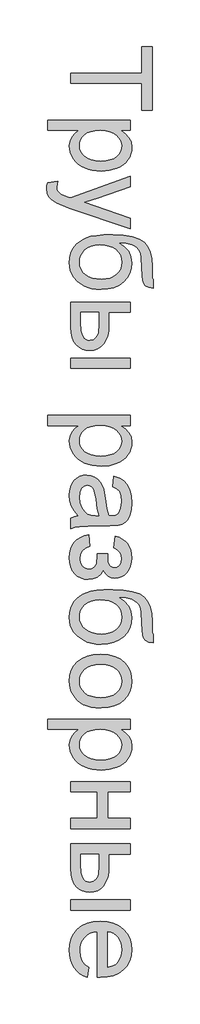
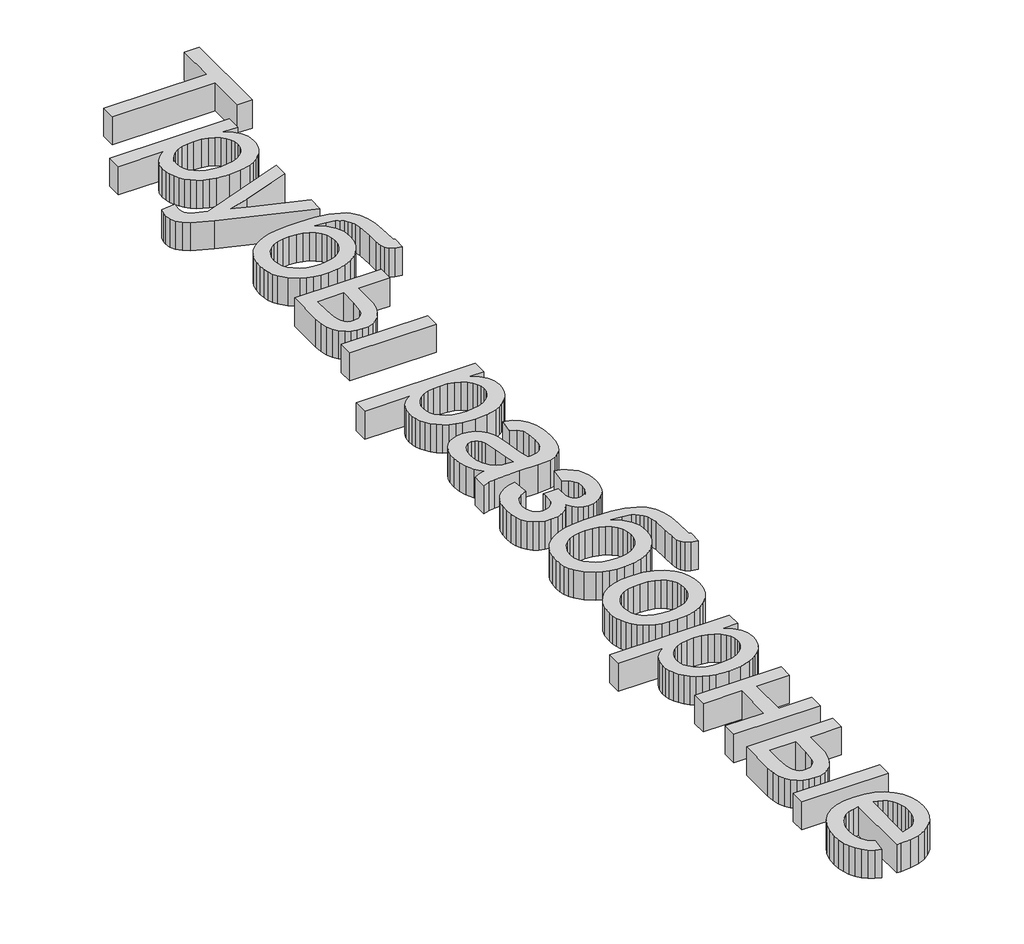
# One storey, part 32 of 33: 1 proxy.
"""IFC4 building model written with IfcOpenShell, lengths in millimetres."""

from ifc_helpers import new_model, si_unit, origin, origin_with_axes, place, context, project, spatial, polyline, outline, extrude, element, save

model = new_model("IFC4")

# Units and contexts
model_context = context("Model", 3, world=origin())
ifc_project = project(units=[si_unit("LENGTHUNIT", "METRE", prefix="MILLI")], contexts=[model_context])

# Site, building, storey
site = spatial("IfcSite", under=ifc_project)
building = spatial("IfcBuilding", under=site)
storey = spatial("IfcBuildingStorey", under=building, Name="Уровень 1", Elevation=0.0)

# Proxy
placement = place(None, origin())
element("IfcBuildingElementProxy", 1, Name="Надпись на модели 1", ObjectType="Надпись на модели 1", at=placement, inside=storey, context=model_context, shape_type="SweptSolid", body=[
    extrude(outline(polyline([(111324.4625724, -714.6440607), (111841.3856493, -714.6440607), (111841.3856493, -520.7979069), (111915.2318032, -520.7979069), (111915.2318032, -982.3363684), (111841.3856493, -982.3363684), (111841.3856493, -788.4902146), (111324.4625724, -788.4902146), (111324.4625724, -714.6440607)])), origin_with_axes(), (0.0, 0.0, 1.0), 150.0),
    extrude(outline(polyline([(111158.3087262, -1056.1825223), (111758.3087262, -1056.1825223), (111758.3087262, -1130.0286761), (111685.9048801, -1130.0286761), (111721.6200243, -1154.1152146), (111747.1308416, -1181.0863684), (111762.437332, -1212.5286761), (111767.5394955, -1250.0286761), (111765.7546397, -1275.7828829), (111760.4000724, -1299.96858), (111751.4757936, -1322.5857675), (111738.9818032, -1343.6344454), (111723.2426205, -1362.6548781), (111704.5827647, -1379.18733), (111683.0022359, -1393.2318011), (111658.5010339, -1404.7882915), (111604.0899762, -1420.2570415), (111544.702957, -1425.4132915), (111481.5479089, -1419.5899742), (111452.4718873, -1412.3108276), (111425.0635339, -1402.1200223), (111400.0394955, -1389.1572819), (111378.1164186, -1373.56233), (111359.2943032, -1355.3351665), (111343.5731493, -1334.4757915), (111331.1738104, -1312.007342), (111322.3171397, -1288.952955), (111317.0031373, -1265.3126305), (111315.2318032, -1241.0863684), (111319.9733897, -1207.1380511), (111334.1981493, -1176.8315607), (111355.6705051, -1150.8880511), (111382.1548801, -1130.0286761), (111158.3087262, -1130.0286761), (111158.3087262, -1056.1825223)]), holes=[polyline([(111537.9241109, -1130.0286761), (111502.3351686, -1132.0253708), (111471.7221878, -1138.015455), (111446.0851686, -1147.9989285), (111425.4241109, -1161.9757915), (111409.5226686, -1178.8012122), (111398.1644955, -1197.3303588), (111391.3495916, -1217.5632314), (111389.077957, -1239.49983), (111391.4307214, -1261.7519333), (111398.4890147, -1282.3543973), (111410.2528368, -1301.3072218), (111426.7221878, -1318.6104069), (111448.1314426, -1333.0289766), (111474.7149762, -1343.327955), (111506.4727887, -1349.507342), (111543.4048801, -1351.5671377), (111578.687332, -1349.5569213), (111609.2462262, -1343.5262723), (111635.0815628, -1333.4751906), (111656.1933416, -1319.4036761), (111672.5995916, -1302.5376906), (111684.3183416, -1284.1031954), (111691.3495916, -1264.1001906), (111693.6933416, -1242.5286761), (111691.2008537, -1221.0247699), (111683.7233897, -1200.7918973), (111671.2609498, -1181.8300583), (111653.8135339, -1164.1392531), (111631.6155171, -1149.2158756), (111604.9012743, -1138.5563204), (111573.6708056, -1132.1605872), (111537.9241109, -1130.0286761)])]), origin_with_axes(), (0.0, 0.0, 1.0), 150.0),
    extrude(outline(polyline([(111158.3087262, -1508.4902146), (111229.4144955, -1499.2594454), (111222.9241109, -1536.7594454), (111224.9613705, -1556.4830031), (111231.0731493, -1571.8075223), (111240.8267551, -1583.7426184), (111253.7894955, -1593.2979069), (111308.1644955, -1613.4902146), (111326.0491109, -1619.2594454), (111758.3087262, -1462.3363684), (111758.3087262, -1540.2209838), (111517.4433416, -1623.4421377), (111421.0971878, -1652.4325223), (111506.1933416, -1681.4229069), (111758.3087262, -1766.9517531), (111758.3087262, -1844.2594454), (111314.077957, -1693.24983), (111217.7318032, -1654.0190607), (111186.9745916, -1633.9349261), (111165.6644955, -1611.1825223), (111153.2245916, -1584.7522338), (111149.077957, -1553.6344454), (111151.3856493, -1532.2522338), (111158.3087262, -1508.4902146)])), origin_with_axes(), (0.0, 0.0, 1.0), 150.0),
    extrude(outline(polyline([(111924.4625724, -2210.0286761), (111924.4625724, -2274.6440607), (111889.3604089, -2267.6488684), (111866.8423801, -2255.6055992), (111853.5190628, -2238.9108877), (111846.0010339, -2217.9613684), (111842.5394955, -2183.8147338), (111841.3856493, -2127.5286761), (111837.1308416, -2052.4385319), (111831.812332, -2025.5349862), (111824.3664186, -2005.7257915), (111814.5767551, -1990.608604), (111802.2269955, -1977.78108), (111787.3171397, -1967.2432194), (111769.8471878, -1958.9950223), (111726.9745916, -1947.9433396), (111673.3568032, -1943.2017531), (111714.6068032, -1972.8952627), (111744.0298801, -2007.1680992), (111761.6620916, -2046.0563204), (111767.5394955, -2089.5959838), (111763.8030171, -2129.827354), (111752.593582, -2166.4349261), (111733.9111902, -2199.4187002), (111707.7558416, -2228.7786761), (111675.227296, -2252.8832434), (111637.4253128, -2270.1007915), (111594.3498921, -2280.4313204), (111546.0010339, -2283.87483), (111509.0148561, -2282.1665968), (111475.5082455, -2277.0418973), (111445.4812022, -2268.5007314), (111418.9337262, -2256.5430992), (111374.9613705, -2226.6693011), (111342.2750724, -2191.7113684), (111330.4436421, -2171.2666569), (111321.9926205, -2147.4325223), (111316.9220075, -2120.2089646), (111315.2318032, -2089.5959838), (111317.4087863, -2054.1828228), (111323.9397359, -2022.9433396), (111334.8246517, -1995.8775343), (111350.0635339, -1972.9854069), (111368.6963464, -1953.3925583), (111389.7630532, -1936.2245896), (111413.2636541, -1921.4815006), (111439.1981493, -1909.1632915), (111471.3841469, -1899.4457434), (111513.6392551, -1892.5046377), (111565.9634738, -1888.3399742), (111628.3568032, -1886.9517531), (111706.1107094, -1890.4538564), (111770.0455051, -1900.9601665), (111820.1611902, -1918.4706833), (111840.0368663, -1929.8525193), (111856.4577647, -1942.9854069), (111882.1714065, -1974.7657555), (111900.5382936, -2014.0731473), (111911.5584258, -2060.9075824), (111915.2318032, -2115.2690607), (111916.890457, -2197.4805992), (111919.6128128, -2205.5214646), (111924.4625724, -2210.0286761)]), holes=[polyline([(111548.3087262, -2210.0286761), (111578.8090267, -2208.0274742), (111606.4156974, -2202.0238684), (111631.1287383, -2192.0178588), (111652.9481493, -2178.0094454), (111670.774171, -2160.359205), (111683.5070436, -2139.4277146), (111691.1467671, -2115.2149742), (111693.6933416, -2087.7209838), (111691.0025363, -2059.0280752), (111682.9301205, -2033.8147338), (111669.476094, -2012.0809598), (111650.640457, -1993.8267531), (111627.3066229, -1979.3766329), (111600.3580051, -1969.0551184), (111569.7946037, -1962.8622098), (111535.6164186, -1960.7979069), (111502.1503729, -1963.0785559), (111472.8580051, -1969.9205031), (111447.7393152, -1981.3237482), (111426.7943032, -1997.2882915), (111410.2934017, -2016.5971857), (111398.5070436, -2038.0334838), (111391.4352287, -2061.5971857), (111389.077957, -2087.2882915), (111391.80482, -2113.3309598), (111399.9854089, -2136.7955031), (111413.6197238, -2157.6819213), (111432.7077647, -2175.9902146), (111456.2940027, -2190.8820415), (111483.4229089, -2201.5190607), (111514.0944835, -2207.9012723), (111548.3087262, -2210.0286761)])]), origin_with_axes(), (0.0, 0.0, 1.0), 150.0),
    extrude(outline(polyline([(111758.3087262, -2376.1825223), (111758.3087262, -2450.0286761), (111601.3856493, -2450.0286761), (111601.3856493, -2541.3267531), (111599.0734498, -2583.3384718), (111592.1368512, -2620.2390127), (111580.5758537, -2652.0283756), (111564.390457, -2678.7065607), (111544.1395556, -2699.8138324), (111520.3820436, -2714.890455), (111493.117921, -2723.9364285), (111462.3471878, -2726.9517531), (111434.8937623, -2724.4232074), (111409.5046397, -2716.8375704), (111386.17982, -2704.194842), (111364.9193032, -2686.4950223), (111347.2194835, -2663.242318), (111334.5767551, -2633.9409357), (111326.9911181, -2598.5908756), (111324.4625724, -2557.1921377), (111324.4625724, -2376.1825223), (111758.3087262, -2376.1825223)]), holes=[polyline([(111398.3087262, -2450.0286761), (111398.3087262, -2525.8940607), (111402.1849282, -2584.7041569), (111407.0301806, -2606.7263925), (111413.8135339, -2623.8267531), (111422.6521758, -2636.6362482), (111433.6632936, -2645.7858877), (111446.8468873, -2651.2756713), (111462.202957, -2653.1055992), (111486.3255532, -2647.6789165), (111507.6356493, -2631.3988684), (111516.343582, -2617.2687603), (111522.5635339, -2596.5851665), (111527.5394955, -2535.5575223), (111527.5394955, -2450.0286761), (111398.3087262, -2450.0286761)])]), origin_with_axes(), (0.0, 0.0, 1.0), 150.0),
    extrude(outline(polyline([(111758.3087262, -2782.3363684), (111758.3087262, -2856.1825223), (111324.4625724, -2856.1825223), (111324.4625724, -2782.3363684), (111758.3087262, -2782.3363684)])), origin_with_axes(), (0.0, 0.0, 1.0), 150.0),
    extrude(outline(polyline([(111158.3087262, -3197.7209838), (111758.3087262, -3197.7209838), (111758.3087262, -3271.5671377), (111685.9048801, -3271.5671377), (111721.6200243, -3295.6536761), (111747.1308416, -3322.62483), (111762.437332, -3354.0671377), (111767.5394955, -3391.5671377), (111765.7546397, -3417.3213444), (111760.4000724, -3441.5070415), (111751.4757936, -3464.124229), (111738.9818032, -3485.1729069), (111723.2426205, -3504.1933396), (111704.5827647, -3520.7257915), (111683.0022359, -3534.7702627), (111658.5010339, -3546.3267531), (111604.0899762, -3561.7955031), (111544.702957, -3566.9517531), (111481.5479089, -3561.1284357), (111452.4718873, -3553.8492891), (111425.0635339, -3543.6584838), (111400.0394955, -3530.6957434), (111378.1164186, -3515.1007915), (111359.2943032, -3496.8736281), (111343.5731493, -3476.0142531), (111331.1738104, -3453.5458035), (111322.3171397, -3430.4914165), (111317.0031373, -3406.851092), (111315.2318032, -3382.62483), (111319.9733897, -3348.6765127), (111334.1981493, -3318.3700223), (111355.6705051, -3292.4265127), (111382.1548801, -3271.5671377), (111158.3087262, -3271.5671377), (111158.3087262, -3197.7209838)]), holes=[polyline([(111537.9241109, -3271.5671377), (111502.3351686, -3273.5638324), (111471.7221878, -3279.5539165), (111446.0851686, -3289.5373901), (111425.4241109, -3303.5142531), (111409.5226686, -3320.3396737), (111398.1644955, -3338.8688204), (111391.3495916, -3359.101693), (111389.077957, -3381.0382915), (111391.4307214, -3403.2903949), (111398.4890147, -3423.8928588), (111410.2528368, -3442.8456833), (111426.7221878, -3460.1488684), (111448.1314426, -3474.5674381), (111474.7149762, -3484.8664165), (111506.4727887, -3491.0458035), (111543.4048801, -3493.1055992), (111578.687332, -3491.0953829), (111609.2462262, -3485.0647338), (111635.0815628, -3475.0136521), (111656.1933416, -3460.9421377), (111672.5995916, -3444.0761521), (111684.3183416, -3425.6416569), (111691.3495916, -3405.6386521), (111693.6933416, -3384.0671377), (111691.2008537, -3362.5632314), (111683.7233897, -3342.3303588), (111671.2609498, -3323.3685199), (111653.8135339, -3305.6777146), (111631.6155171, -3290.7543372), (111604.9012743, -3280.0947819), (111573.6708056, -3273.6990487), (111537.9241109, -3271.5671377)])]), origin_with_axes(), (0.0, 0.0, 1.0), 150.0),
    extrude(outline(polyline([(111379.8471878, -3926.9517531), (111349.5947839, -3891.6693011), (111329.7991109, -3855.3411761), (111318.8736301, -3817.1380511), (111315.2318032, -3776.2305992), (111317.422308, -3743.350491), (111323.9938224, -3714.5178588), (111334.9463464, -3689.7327026), (111350.2798801, -3668.9950223), (111369.0208657, -3652.6203228), (111390.1957455, -3640.9241088), (111413.8045195, -3633.9063805), (111439.8471878, -3631.5671377), (111470.4601686, -3635.1007915), (111498.2606493, -3645.7017531), (111522.0587262, -3662.0539165), (111540.6644955, -3682.8411761), (111554.7269955, -3707.2702627), (111564.8952647, -3734.5479069), (111576.0010339, -3798.4421377), (111587.6837262, -3873.9469454), (111601.3856493, -3926.5190607), (111617.827957, -3926.9517531), (111650.7846878, -3921.8676184), (111662.9902166, -3915.5124502), (111672.3471878, -3906.6152146), (111681.6861301, -3891.2366088), (111688.3568032, -3872.5046377), (111693.6933416, -3824.9805992), (111690.1416589, -3780.9902146), (111679.4866109, -3750.2690607), (111659.781082, -3729.3195415), (111629.077957, -3714.6440607), (111638.3087262, -3640.7979069), (111678.6933416, -3653.6164165), (111710.4241109, -3672.7450223), (111734.6909378, -3699.96858), (111752.6837262, -3737.0719454), (111763.8255532, -3782.4505511), (111767.5394955, -3834.49983), (111764.2582455, -3884.421705), (111754.4144955, -3923.9950223), (111739.6128128, -3953.8327627), (111721.4577647, -3974.5479069), (111699.0118512, -3988.2858877), (111671.3375724, -3997.1921377), (111606.7221878, -4000.7979069), (111514.8471878, -4000.7979069), (111386.5539186, -4004.5479069), (111354.8411782, -4010.1007915), (111324.4625724, -4019.2594454), (111324.4625724, -3945.4132915), (111350.1356493, -3933.5863684), (111379.8471878, -3926.9517531)]), holes=[polyline([(111527.5394955, -3926.9517531), (111515.2438224, -3877.3363684), (111504.8952647, -3807.8171377), (111492.9241109, -3744.2834838), (111484.7390147, -3727.7510319), (111473.452957, -3715.5094454), (111459.9313224, -3707.93733), (111445.0394955, -3705.4132915), (111423.0803609, -3710.9120896), (111405.0875724, -3727.4084838), (111393.0803609, -3754.5418973), (111389.077957, -3791.9517531), (111393.4950243, -3831.6152146), (111406.7462262, -3866.6632915), (111426.2714666, -3895.0767531), (111449.5106493, -3914.8363684), (111473.452957, -3923.5983877), (111506.6260339, -3926.5190607), (111527.5394955, -3926.9517531)])]), origin_with_axes(), (0.0, 0.0, 1.0), 150.0),
    extrude(outline(polyline([(111518.3087262, -4203.87483), (111592.1548801, -4203.87483), (111595.0394955, -4262.1440607), (111600.1777166, -4277.2882915), (111610.4000724, -4291.5671377), (111624.8051205, -4301.9517531), (111642.4914186, -4305.4132915), (111663.4950243, -4300.7798781), (111679.7750724, -4286.8796377), (111690.2137743, -4265.6596857), (111693.6933416, -4239.0671377), (111690.2318032, -4212.1861281), (111679.8471878, -4189.6680992), (111662.5394955, -4171.5130511), (111638.3087262, -4157.7209838), (111647.5394955, -4074.6440607), (111675.6644955, -4084.2263925), (111700.0394955, -4096.6753107), (111720.6644955, -4111.9908156), (111737.5394955, -4130.1729069), (111750.6644955, -4151.2215848), (111760.0394955, -4175.1368492), (111765.6644955, -4201.9187002), (111767.5394955, -4231.5671377), (111765.2543392, -4264.3075223), (111758.3988705, -4293.2979069), (111746.9730892, -4318.5382915), (111730.9769955, -4340.0286761), (111711.8078248, -4357.1921377), (111690.8628128, -4369.4517531), (111668.1419594, -4376.8075223), (111643.6452647, -4379.2594454), (111619.4144955, -4375.7708636), (111597.7798801, -4365.3051184), (111578.7414186, -4347.8622098), (111562.2991109, -4323.4421377), (111541.7822839, -4351.9457434), (111516.2894955, -4372.2642531), (111485.7486301, -4384.4337242), (111450.0875724, -4388.4902146), (111421.4983296, -4385.9165968), (111395.7306012, -4378.1957434), (111372.7843873, -4365.3276545), (111352.6596878, -4347.31233), (111336.2849883, -4324.6726064), (111324.5887743, -4297.9313204), (111317.571046, -4267.0884718), (111315.2318032, -4232.1440607), (111317.3952647, -4198.0830631), (111323.8856493, -4167.7991088), (111334.702957, -4141.2921978), (111349.8471878, -4118.56233), (111369.3183416, -4099.6095055), (111393.1164186, -4084.4337242), (111421.2414186, -4073.0349862), (111453.6933416, -4065.4132915), (111462.9241109, -4148.4902146), (111431.6981493, -4160.9301184), (111408.4048801, -4181.8075223), (111393.9096878, -4208.7065607), (111389.077957, -4239.2113684), (111393.7113705, -4268.9229069), (111407.6116109, -4293.1536761), (111428.7233897, -4309.2714646), (111454.9914186, -4314.6440607), (111475.796707, -4311.3087242), (111493.7894955, -4301.3027146), (111507.2750724, -4287.5286761), (111514.5587262, -4272.8892531), (111518.7414186, -4218.2979069), (111518.3087262, -4203.87483)])), origin_with_axes(), (0.0, 0.0, 1.0), 150.0),
    extrude(outline(polyline([(111924.4625724, -4785.4132915), (111924.4625724, -4850.0286761), (111889.3604089, -4843.0334838), (111866.8423801, -4830.9902146), (111853.5190628, -4814.2955031), (111846.0010339, -4793.3459838), (111842.5394955, -4759.1993492), (111841.3856493, -4702.9132915), (111837.1308416, -4627.8231473), (111831.812332, -4600.9196016), (111824.3664186, -4581.1104069), (111814.5767551, -4565.9932194), (111802.2269955, -4553.1656954), (111787.3171397, -4542.6278348), (111769.8471878, -4534.3796377), (111726.9745916, -4523.327955), (111673.3568032, -4518.5863684), (111714.6068032, -4548.2798781), (111744.0298801, -4582.5527146), (111761.6620916, -4621.4409357), (111767.5394955, -4664.9805992), (111763.8030171, -4705.2119694), (111752.593582, -4741.8195415), (111733.9111902, -4774.8033156), (111707.7558416, -4804.1632915), (111675.227296, -4828.2678588), (111637.4253128, -4845.4854069), (111594.3498921, -4855.8159357), (111546.0010339, -4859.2594454), (111509.0148561, -4857.5512122), (111475.5082455, -4852.4265127), (111445.4812022, -4843.8853468), (111418.9337262, -4831.9277146), (111374.9613705, -4802.0539165), (111342.2750724, -4767.0959838), (111330.4436421, -4746.6512723), (111321.9926205, -4722.8171377), (111316.9220075, -4695.59358), (111315.2318032, -4664.9805992), (111317.4087863, -4629.5674381), (111323.9397359, -4598.327955), (111334.8246517, -4571.2621497), (111350.0635339, -4548.3700223), (111368.6963464, -4528.7771737), (111389.7630532, -4511.609205), (111413.2636541, -4496.866116), (111439.1981493, -4484.5479069), (111471.3841469, -4474.8303588), (111513.6392551, -4467.8892531), (111565.9634738, -4463.7245896), (111628.3568032, -4462.3363684), (111706.1107094, -4465.8384718), (111770.0455051, -4476.3447819), (111820.1611902, -4493.8552987), (111840.0368663, -4505.2371347), (111856.4577647, -4518.3700223), (111882.1714065, -4550.1503708), (111900.5382936, -4589.4577627), (111911.5584258, -4636.2921978), (111915.2318032, -4690.6536761), (111916.890457, -4772.8652146), (111919.6128128, -4780.90608), (111924.4625724, -4785.4132915)]), holes=[polyline([(111548.3087262, -4785.4132915), (111578.8090267, -4783.4120896), (111606.4156974, -4777.4084838), (111631.1287383, -4767.4024742), (111652.9481493, -4753.3940607), (111670.774171, -4735.7438204), (111683.5070436, -4714.81233), (111691.1467671, -4690.5995896), (111693.6933416, -4663.1055992), (111691.0025363, -4634.4126906), (111682.9301205, -4609.1993492), (111669.476094, -4587.4655752), (111650.640457, -4569.2113684), (111627.3066229, -4554.7612482), (111600.3580051, -4544.4397338), (111569.7946037, -4538.2468252), (111535.6164186, -4536.1825223), (111502.1503729, -4538.4631713), (111472.8580051, -4545.3051184), (111447.7393152, -4556.7083636), (111426.7943032, -4572.6729069), (111410.2934017, -4591.9818011), (111398.5070436, -4613.4180992), (111391.4352287, -4636.9818011), (111389.077957, -4662.6729069), (111391.80482, -4688.7155752), (111399.9854089, -4712.1801184), (111413.6197238, -4733.0665367), (111432.7077647, -4751.37483), (111456.2940027, -4766.2666569), (111483.4229089, -4776.9036761), (111514.0944835, -4783.2858877), (111548.3087262, -4785.4132915)])]), origin_with_axes(), (0.0, 0.0, 1.0), 150.0),
    extrude(outline(polyline([(111541.3856493, -4933.1055992), (111597.5725484, -4937.0989886), (111645.9890147, -4949.0791569), (111686.6350484, -4969.046104), (111719.5106493, -4996.99983), (111740.5232695, -5025.1428588), (111755.5322839, -5056.2065607), (111764.5376926, -5090.1909357), (111767.5394955, -5127.0959838), (111763.8841469, -5167.8366689), (111752.9181012, -5204.6741088), (111734.6413585, -5237.6083035), (111709.0539186, -5266.6392531), (111677.0211662, -5290.3336641), (111639.4084859, -5307.2582434), (111596.2158777, -5317.412991), (111547.4433416, -5320.7979069), (111507.9150964, -5319.3015127), (111472.8399762, -5314.81233), (111442.2179811, -5307.3303588), (111416.0491109, -5296.8555992), (111393.445445, -5283.5187603), (111373.5190628, -5267.4505511), (111356.2699642, -5248.6509718), (111341.6981493, -5227.1200223), (111330.1191229, -5203.6960439), (111321.8483897, -5179.2173781), (111316.8859498, -5153.6840247), (111315.2318032, -5127.0959838), (111318.8736301, -5085.7603468), (111329.7991109, -5048.5803588), (111348.0082455, -5015.5560199), (111373.5010339, -4986.68733), (111405.8447839, -4963.2453228), (111444.6068032, -4946.5010319), (111489.7870916, -4936.4544574), (111541.3856493, -4933.1055992)]), holes=[polyline([(111541.5298801, -5006.9517531), (111505.71107, -5009.0881713), (111474.6969474, -5015.4974261), (111448.4875123, -5026.1795175), (111427.0827647, -5041.1344454), (111410.4556613, -5059.3255511), (111398.5791589, -5079.7161761), (111391.4532575, -5102.3063204), (111389.077957, -5127.0959838), (111391.4667791, -5151.7594454), (111398.6332455, -5174.2594454), (111410.5773561, -5194.5959838), (111427.2991109, -5212.7690607), (111448.9156974, -5227.7239886), (111475.5443032, -5238.40608), (111507.1849282, -5244.8153348), (111543.8375724, -5246.9517531), (111578.5205652, -5244.8018131), (111608.7233897, -5238.3519934), (111634.446046, -5227.6022939), (111655.6885339, -5212.5527146), (111672.3156373, -5194.3120295), (111684.1921397, -5173.9890127), (111691.3180412, -5151.5836641), (111693.6933416, -5127.0959838), (111691.3270556, -5102.3063204), (111684.2281974, -5079.7161761), (111672.3967671, -5059.3255511), (111655.8327647, -5041.1344454), (111634.4911181, -5026.1795175), (111608.3267551, -5015.4974261), (111577.3396758, -5009.0881713), (111541.5298801, -5006.9517531)])]), origin_with_axes(), (0.0, 0.0, 1.0), 150.0),
    extrude(outline(polyline([(111158.3087262, -5403.87483), (111758.3087262, -5403.87483), (111758.3087262, -5477.7209838), (111685.9048801, -5477.7209838), (111721.6200243, -5501.8075223), (111747.1308416, -5528.7786761), (111762.437332, -5560.2209838), (111767.5394955, -5597.7209838), (111765.7546397, -5623.4751906), (111760.4000724, -5647.6608877), (111751.4757936, -5670.2780752), (111738.9818032, -5691.3267531), (111723.2426205, -5710.3471857), (111704.5827647, -5726.8796377), (111683.0022359, -5740.9241088), (111658.5010339, -5752.4805992), (111604.0899762, -5767.9493492), (111544.702957, -5773.1055992), (111481.5479089, -5767.2822819), (111452.4718873, -5760.0031353), (111425.0635339, -5749.81233), (111400.0394955, -5736.8495896), (111378.1164186, -5721.2546377), (111359.2943032, -5703.0274742), (111343.5731493, -5682.1680992), (111331.1738104, -5659.6996497), (111322.3171397, -5636.6452627), (111317.0031373, -5613.0049381), (111315.2318032, -5588.7786761), (111319.9733897, -5554.8303588), (111334.1981493, -5524.5238684), (111355.6705051, -5498.5803588), (111382.1548801, -5477.7209838), (111158.3087262, -5477.7209838), (111158.3087262, -5403.87483)]), holes=[polyline([(111537.9241109, -5477.7209838), (111502.3351686, -5479.7176785), (111471.7221878, -5485.7077627), (111446.0851686, -5495.6912362), (111425.4241109, -5509.6680992), (111409.5226686, -5526.4935199), (111398.1644955, -5545.0226665), (111391.3495916, -5565.2555391), (111389.077957, -5587.1921377), (111391.4307214, -5609.444241), (111398.4890147, -5630.046705), (111410.2528368, -5648.9995295), (111426.7221878, -5666.3027146), (111448.1314426, -5680.7212843), (111474.7149762, -5691.0202627), (111506.4727887, -5697.1996497), (111543.4048801, -5699.2594454), (111578.687332, -5697.249229), (111609.2462262, -5691.21858), (111635.0815628, -5681.1674982), (111656.1933416, -5667.0959838), (111672.5995916, -5650.2299982), (111684.3183416, -5631.7955031), (111691.3495916, -5611.7924982), (111693.6933416, -5590.2209838), (111691.2008537, -5568.7170776), (111683.7233897, -5548.484205), (111671.2609498, -5529.522366), (111653.8135339, -5511.8315607), (111631.6155171, -5496.9081833), (111604.9012743, -5486.2486281), (111573.6708056, -5479.8528949), (111537.9241109, -5477.7209838)])]), origin_with_axes(), (0.0, 0.0, 1.0), 150.0),
    extrude(outline(polyline([(111758.3087262, -5856.1825223), (111758.3087262, -5930.0286761), (111592.1548801, -5930.0286761), (111592.1548801, -6123.87483), (111758.3087262, -6123.87483), (111758.3087262, -6197.7209838), (111324.4625724, -6197.7209838), (111324.4625724, -6123.87483), (111518.3087262, -6123.87483), (111518.3087262, -5930.0286761), (111324.4625724, -5930.0286761), (111324.4625724, -5856.1825223), (111758.3087262, -5856.1825223)])), origin_with_axes(), (0.0, 0.0, 1.0), 150.0),
    extrude(outline(polyline([(111758.3087262, -6308.4902146), (111758.3087262, -6382.3363684), (111601.3856493, -6382.3363684), (111601.3856493, -6473.6344454), (111599.0734498, -6515.6461641), (111592.1368512, -6552.546705), (111580.5758537, -6584.336068), (111564.390457, -6611.0142531), (111544.1395556, -6632.1215247), (111520.3820436, -6647.1981473), (111493.117921, -6656.2441208), (111462.3471878, -6659.2594454), (111434.8937623, -6656.7308997), (111409.5046397, -6649.1452627), (111386.17982, -6636.5025343), (111364.9193032, -6618.8027146), (111347.2194835, -6595.5500103), (111334.5767551, -6566.2486281), (111326.9911181, -6530.898568), (111324.4625724, -6489.49983), (111324.4625724, -6308.4902146), (111758.3087262, -6308.4902146)]), holes=[polyline([(111398.3087262, -6382.3363684), (111398.3087262, -6458.2017531), (111402.1849282, -6517.0118492), (111407.0301806, -6539.0340848), (111413.8135339, -6556.1344454), (111422.6521758, -6568.9439406), (111433.6632936, -6578.09358), (111446.8468873, -6583.5833636), (111462.202957, -6585.4132915), (111486.3255532, -6579.9866088), (111507.6356493, -6563.7065607), (111516.343582, -6549.5764526), (111522.5635339, -6528.8928588), (111527.5394955, -6467.8652146), (111527.5394955, -6382.3363684), (111398.3087262, -6382.3363684)])]), origin_with_axes(), (0.0, 0.0, 1.0), 150.0),
    extrude(outline(polyline([(111758.3087262, -6714.6440607), (111758.3087262, -6788.4902146), (111324.4625724, -6788.4902146), (111324.4625724, -6714.6440607), (111758.3087262, -6714.6440607)])), origin_with_axes(), (0.0, 0.0, 1.0), 150.0),
    extrude(outline(polyline([(111453.6933416, -7203.0094454), (111444.4625724, -7275.4132915), (111415.4631734, -7264.3120295), (111389.9072839, -7249.3255511), (111367.7949041, -7230.4538564), (111349.1260339, -7207.6969454), (111334.297308, -7181.289193), (111323.7053609, -7151.4649742), (111317.3501926, -7118.2242891), (111315.2318032, -7081.5671377), (111318.8871517, -7035.7468252), (111329.8531974, -6994.9205031), (111348.1299402, -6959.0881713), (111373.7173801, -6928.24983), (111405.9033777, -6903.4511521), (111443.9757936, -6885.7378107), (111487.9346277, -6875.1098059), (111537.7798801, -6871.5671377), (111589.3153368, -6875.1458636), (111634.7390147, -6885.8820415), (111674.0509137, -6903.7756713), (111707.2510339, -6928.8267531), (111733.6272359, -6959.5839646), (111752.4673801, -6994.5959838), (111763.7714666, -7033.8628107), (111767.5394955, -7077.3844454), (111763.7804811, -7119.5043372), (111752.5034378, -7157.5947819), (111733.7083657, -7191.6557795), (111707.3952647, -7221.68733), (111674.2672599, -7246.2020535), (111635.0274762, -7263.7125704), (111589.6759137, -7274.2188805), (111538.2125724, -7277.7209838), (111518.3087262, -7277.2882915), (111518.3087262, -6945.4132915), (111488.8405772, -6949.6906353), (111463.0322839, -6958.1957434), (111440.8838464, -6970.928616), (111422.3952647, -6987.8892531), (111407.8189426, -7008.1401545), (111397.4072839, -7030.7438204), (111391.1602887, -7055.7002506), (111389.077957, -7083.0094454), (111392.9361301, -7122.31233), (111404.5106493, -7155.4132915), (111424.5226686, -7182.31233), (111453.6933416, -7203.0094454)]), holes=[polyline([(111592.1548801, -6945.4132915), (111592.1548801, -7203.87483), (111631.1693032, -7193.8868492), (111646.5118512, -7185.296104), (111659.077957, -7174.3075223), (111674.2221878, -7154.1693011), (111685.0394955, -7131.2546377), (111691.5298801, -7105.5635319), (111693.6933416, -7077.0959838), (111691.9670796, -7051.1299381), (111686.7882936, -7027.3183396), (111678.1569835, -7005.6611881), (111666.0731493, -6986.1584838), (111651.0956854, -6969.7927987), (111633.7834859, -6957.546705), (111614.1365508, -6949.4202026), (111592.1548801, -6945.4132915)])]), origin_with_axes(), (0.0, 0.0, 1.0), 150.0),
])

save(model, "model.ifc")
